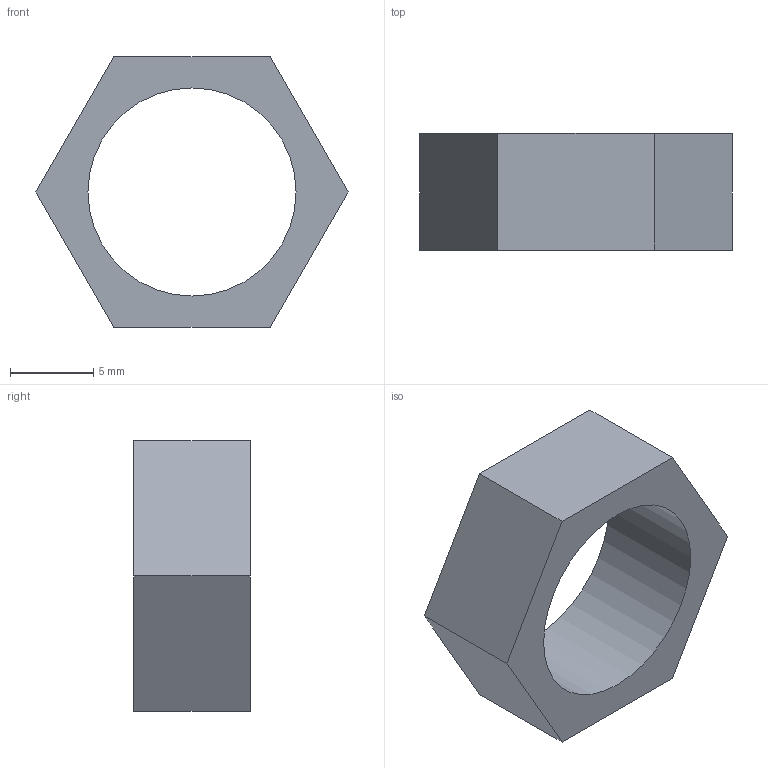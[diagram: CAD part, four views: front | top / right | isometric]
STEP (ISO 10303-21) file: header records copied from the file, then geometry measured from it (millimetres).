
FILE_DESCRIPTION(('Open CASCADE Model'),'2;1');
FILE_NAME('Open CASCADE Shape Model','2026-10-20T13:19:34',('Author'),( 'Open CASCADE'),'Open CASCADE STEP processor 7.9','Open CASCADE 7.9' ,'Unknown');
FILE_SCHEMA(('AUTOMOTIVE_DESIGN { 1 0 10303 214 1 1 1 1 }'));
Length unit declared in the file: millimetre
Products named in the file (1): Open CASCADE STEP translator 7.9 7
Bounding box: 18.75 x 7 x 16.24 mm (x, y, z)
Volume: 739.4 mm3; surface area: 879.9 mm2
Topology: 1 solids, 1 shells, 9 faces, 21 edges, 14 vertices
Faces by surface type: plane 8, cylinder 1
Full cylindrical faces by diameter (mm): 12.5 x1
Entity records: 550 total; most frequent: CARTESIAN_POINT 99, DIRECTION 83, LINE 59, VECTOR 59, ORIENTED_EDGE 42, PCURVE 42, DEFINITIONAL_REPRESENTATION 42, EDGE_CURVE 21
